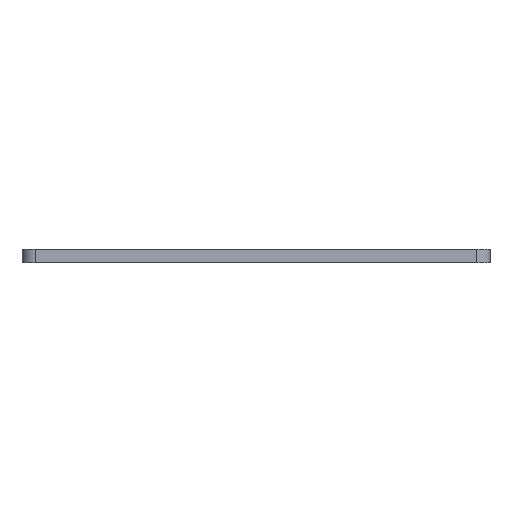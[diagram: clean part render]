
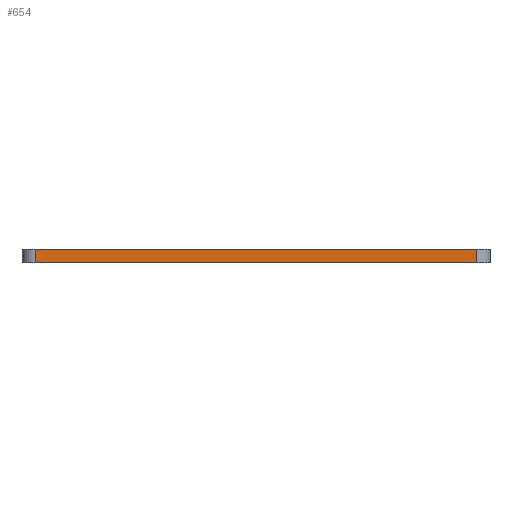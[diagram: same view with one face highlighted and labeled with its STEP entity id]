
A CAD part, left-side view. The second image highlights one B-rep face of the part: STEP entity #654.
In plain terms, the highlighted planar face has unit normal (-1, 0, 0).
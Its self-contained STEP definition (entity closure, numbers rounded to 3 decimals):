
#4 = CARTESIAN_POINT ( 'NONE',  ( 0., 2., 0. ) ) ;
#19 = VERTEX_POINT ( 'NONE', #4 ) ;
#94 = VECTOR ( 'NONE', #487, 1000. ) ;
#129 = LINE ( 'NONE', #759, #94 ) ;
#153 = VERTEX_POINT ( 'NONE', #345 ) ;
#161 = VECTOR ( 'NONE', #503, 1000. ) ;
#165 = VECTOR ( 'NONE', #508, 1000. ) ;
#169 = VERTEX_POINT ( 'NONE', #336 ) ;
#222 = FACE_OUTER_BOUND ( 'NONE', #439, .T. ) ;
#238 = ORIENTED_EDGE ( 'NONE', *, *, #662, .T. ) ;
#239 = ORIENTED_EDGE ( 'NONE', *, *, #689, .F. ) ;
#241 = ORIENTED_EDGE ( 'NONE', *, *, #727, .F. ) ;
#242 = ORIENTED_EDGE ( 'NONE', *, *, #471, .T. ) ;
#263 = VECTOR ( 'NONE', #671, 1000. ) ;
#290 = CARTESIAN_POINT ( 'NONE',  ( 0., 2., 2. ) ) ;
#336 = CARTESIAN_POINT ( 'NONE',  ( 0., 2., 2. ) ) ;
#345 = CARTESIAN_POINT ( 'NONE',  ( 0., 69., 2. ) ) ;
#439 = EDGE_LOOP ( 'NONE', ( #238, #239, #241, #242 ) ) ;
#471 = EDGE_CURVE ( 'NONE', #153, #824, #477, .T. ) ;
#475 = AXIS2_PLACEMENT_3D ( 'NONE', #290, #839, #542 ) ;
#477 = LINE ( 'NONE', #693, #263 ) ;
#487 = DIRECTION ( 'NONE',  ( 0., 0., -1. ) ) ;
#503 = DIRECTION ( 'NONE',  ( 0., -1., 0. ) ) ;
#505 = PLANE ( 'NONE',  #475 ) ;
#508 = DIRECTION ( 'NONE',  ( 0., -1., 0. ) ) ;
#542 = DIRECTION ( 'NONE',  ( 0., 0., -1. ) ) ;
#545 = LINE ( 'NONE', #550, #165 ) ;
#550 = CARTESIAN_POINT ( 'NONE',  ( 0., 2., 0. ) ) ;
#598 = CARTESIAN_POINT ( 'NONE',  ( 0., 2., 2. ) ) ;
#600 = LINE ( 'NONE', #598, #161 ) ;
#654 = ADVANCED_FACE ( 'NONE', ( #222 ), #505, .F. ) ;
#662 = EDGE_CURVE ( 'NONE', #824, #19, #545, .T. ) ;
#671 = DIRECTION ( 'NONE',  ( 0., 0., -1. ) ) ;
#689 = EDGE_CURVE ( 'NONE', #169, #19, #129, .T. ) ;
#693 = CARTESIAN_POINT ( 'NONE',  ( 0., 69., 2. ) ) ;
#727 = EDGE_CURVE ( 'NONE', #153, #169, #600, .T. ) ;
#759 = CARTESIAN_POINT ( 'NONE',  ( 0., 2., 2. ) ) ;
#793 = CARTESIAN_POINT ( 'NONE',  ( 0., 69., 0. ) ) ;
#824 = VERTEX_POINT ( 'NONE', #793 ) ;
#839 = DIRECTION ( 'NONE',  ( 1., 0., 0. ) ) ;
